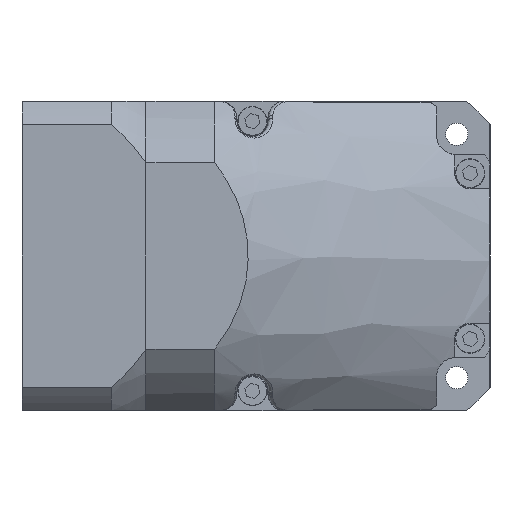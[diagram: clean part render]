
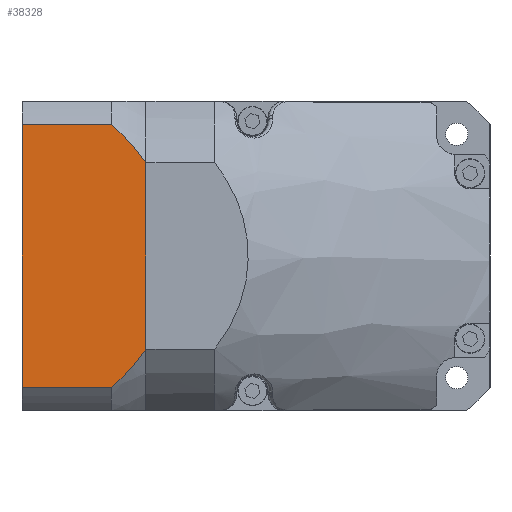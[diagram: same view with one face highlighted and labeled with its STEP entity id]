
A CAD part, front view. The second image highlights one B-rep face of the part: STEP entity #38328.
In plain terms, the highlighted planar face has unit normal (0, -1, 0).
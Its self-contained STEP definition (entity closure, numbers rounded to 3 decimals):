
#1856 = CARTESIAN_POINT ( 'NONE',  ( -38.158, -45., -36. ) ) ;
#2443 = EDGE_CURVE ( 'NONE', #37148, #14932, #20433, .T. ) ;
#3542 = ORIENTED_EDGE ( 'NONE', *, *, #40259, .F. ) ;
#4175 = VECTOR ( 'NONE', #38056, 1000. ) ;
#6122 = VECTOR ( 'NONE', #22118, 1000. ) ;
#9512 = EDGE_LOOP ( 'NONE', ( #28656, #21031, #21332, #11153, #19443, #3542 ) ) ;
#10038 = EDGE_CURVE ( 'NONE', #37148, #13462, #32041, .T. ) ;
#10544 = DIRECTION ( 'NONE',  ( 1., 0., 0. ) ) ;
#10719 = AXIS2_PLACEMENT_3D ( 'NONE', #16443, #40026, #19857 ) ;
#11056 = CARTESIAN_POINT ( 'NONE',  ( 29.126, -45., -1.409 ) ) ;
#11153 = ORIENTED_EDGE ( 'NONE', *, *, #29319, .T. ) ;
#11487 = FACE_OUTER_BOUND ( 'NONE', #9512, .T. ) ;
#13049 = PLANE ( 'NONE',  #10719 ) ;
#13462 = VERTEX_POINT ( 'NONE', #28898 ) ;
#14423 = CARTESIAN_POINT ( 'NONE',  ( 34.792, -45., -6.289 ) ) ;
#14932 = VERTEX_POINT ( 'NONE', #16648 ) ;
#15016 = LINE ( 'NONE', #1856, #6122 ) ;
#15989 = EDGE_CURVE ( 'NONE', #28068, #28854, #18867, .T. ) ;
#16443 = CARTESIAN_POINT ( 'NONE',  ( -45., -45., -36. ) ) ;
#16648 = CARTESIAN_POINT ( 'NONE',  ( -38.158, -45., -10. ) ) ;
#17406 = VERTEX_POINT ( 'NONE', #18062 ) ;
#17816 = CARTESIAN_POINT ( 'NONE',  ( 38.158, -45., -10. ) ) ;
#18062 = CARTESIAN_POINT ( 'NONE',  ( -38.158, -45., -36. ) ) ;
#18867 = LINE ( 'NONE', #21303, #4175 ) ;
#19443 = ORIENTED_EDGE ( 'NONE', *, *, #15989, .T. ) ;
#19857 = DIRECTION ( 'NONE',  ( 0., 0., -1. ) ) ;
#20433 = B_SPLINE_CURVE_WITH_KNOTS ( 'NONE', 3,
 ( #41400, #41211, #41166, #41123, #41090, #41081 ),
 .UNSPECIFIED., .F., .F.,
 ( 4, 2, 4 ),
 ( 0., 0.007, 0.015 ),
 .UNSPECIFIED. ) ;
#21031 = ORIENTED_EDGE ( 'NONE', *, *, #2443, .T. ) ;
#21303 = CARTESIAN_POINT ( 'NONE',  ( 38.158, -45., -36. ) ) ;
#21332 = ORIENTED_EDGE ( 'NONE', *, *, #40833, .T. ) ;
#22118 = DIRECTION ( 'NONE',  ( 0., 0., -1. ) ) ;
#22990 = CARTESIAN_POINT ( 'NONE',  ( -27.042, -45., 0. ) ) ;
#23063 = VECTOR ( 'NONE', #37955, 1000. ) ;
#27044 = B_SPLINE_CURVE_WITH_KNOTS ( 'NONE', 3,
 ( #31361, #11056, #34743, #14423, #38026, #17816 ),
 .UNSPECIFIED., .F., .F.,
 ( 4, 2, 4 ),
 ( 0., 0.007, 0.015 ),
 .UNSPECIFIED. ) ;
#27448 = CARTESIAN_POINT ( 'NONE',  ( -45., -45., -36. ) ) ;
#28068 = VERTEX_POINT ( 'NONE', #35192 ) ;
#28656 = ORIENTED_EDGE ( 'NONE', *, *, #10038, .F. ) ;
#28854 = VERTEX_POINT ( 'NONE', #29672 ) ;
#28898 = CARTESIAN_POINT ( 'NONE',  ( 27.042, -45., 0. ) ) ;
#29319 = EDGE_CURVE ( 'NONE', #17406, #28068, #39425, .T. ) ;
#29672 = CARTESIAN_POINT ( 'NONE',  ( 38.158, -45., -10. ) ) ;
#30558 = VECTOR ( 'NONE', #10544, 1000. ) ;
#31361 = CARTESIAN_POINT ( 'NONE',  ( 27.042, -45., 0. ) ) ;
#32041 = LINE ( 'NONE', #37898, #23063 ) ;
#34743 = CARTESIAN_POINT ( 'NONE',  ( 31.09, -45., -2.953 ) ) ;
#35192 = CARTESIAN_POINT ( 'NONE',  ( 38.158, -45., -36. ) ) ;
#37148 = VERTEX_POINT ( 'NONE', #22990 ) ;
#37898 = CARTESIAN_POINT ( 'NONE',  ( 0., -45., 0. ) ) ;
#37955 = DIRECTION ( 'NONE',  ( 1., 0., 0. ) ) ;
#38026 = CARTESIAN_POINT ( 'NONE',  ( 36.531, -45., -8.082 ) ) ;
#38056 = DIRECTION ( 'NONE',  ( 0., 0., 1. ) ) ;
#38328 = ADVANCED_FACE ( 'NONE', ( #11487 ), #13049, .T. ) ;
#39425 = LINE ( 'NONE', #27448, #30558 ) ;
#40026 = DIRECTION ( 'NONE',  ( 0., -1., 0. ) ) ;
#40259 = EDGE_CURVE ( 'NONE', #13462, #28854, #27044, .T. ) ;
#40833 = EDGE_CURVE ( 'NONE', #14932, #17406, #15016, .T. ) ;
#41081 = CARTESIAN_POINT ( 'NONE',  ( -38.158, -45., -10. ) ) ;
#41090 = CARTESIAN_POINT ( 'NONE',  ( -36.531, -45., -8.082 ) ) ;
#41123 = CARTESIAN_POINT ( 'NONE',  ( -34.792, -45., -6.289 ) ) ;
#41166 = CARTESIAN_POINT ( 'NONE',  ( -31.09, -45., -2.953 ) ) ;
#41211 = CARTESIAN_POINT ( 'NONE',  ( -29.126, -45., -1.409 ) ) ;
#41400 = CARTESIAN_POINT ( 'NONE',  ( -27.042, -45., 0. ) ) ;
